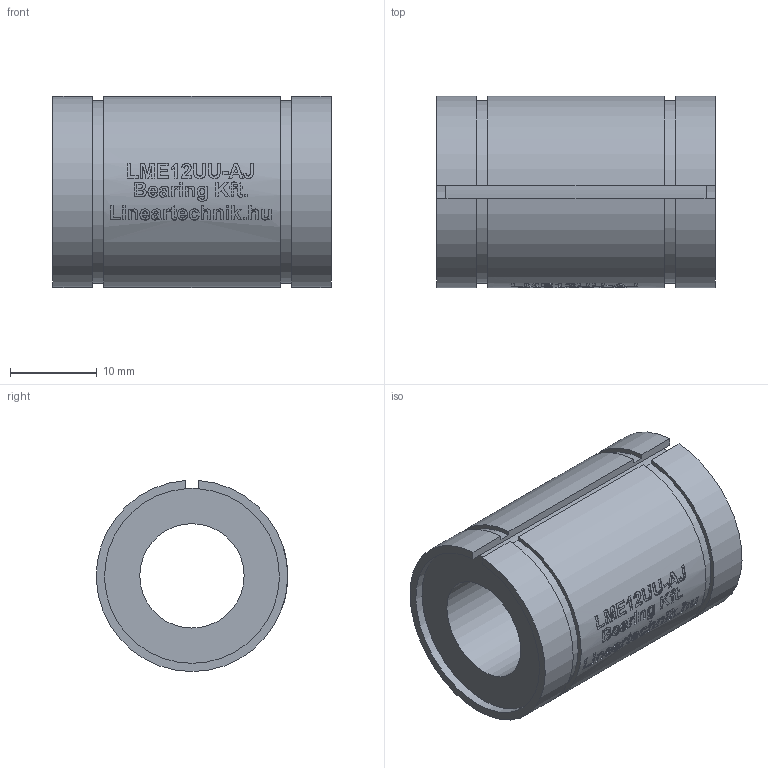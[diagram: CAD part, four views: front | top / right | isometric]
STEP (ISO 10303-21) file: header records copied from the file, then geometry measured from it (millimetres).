
FILE_DESCRIPTION(/* description */ (''),/* implementation_level */ '2;1');
FILE_NAME(/* name */ 'LME12UU-AJ',/* time_stamp */ '2019-07-02T12:05:39+02:00',/* author */ ('VĂ©gh MĂˇtĂ©'),/* organization */ ('Bearing Kft'),/* preprocessor_version */ 'ST-DEVELOPER v16.7',/* originating_system */ 'DEX',/* authorisation */ $);
FILE_SCHEMA (('AUTOMOTIVE_DESIGN {1 0 10303 214 3 1 1}'));
Length unit declared in the file: millimetre
Products named in the file (1): LME12UU-AJ
Bounding box: 32 x 21.99 x 21.97 mm (x, y, z)
Volume: 8001.7 mm3; surface area: 4199.8 mm2
Topology: 1 solids, 1 shells, 345 faces, 880 edges, 586 vertices
Faces by surface type: plane 187, bspline 100, cylinder 58
Full cylindrical faces by diameter (mm): 12 x1
Entity records: 16381 total; most frequent: CARTESIAN_POINT 8511, ORIENTED_EDGE 1754, DIRECTION 1337, EDGE_CURVE 877, VERTEX_POINT 585, LINE 503, VECTOR 503, AXIS2_PLACEMENT_3D 417
